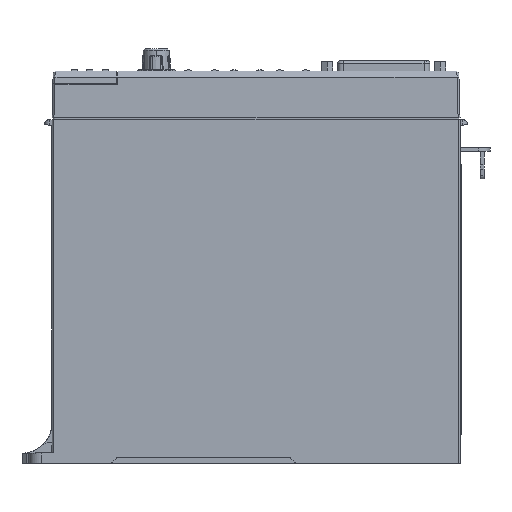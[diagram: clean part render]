
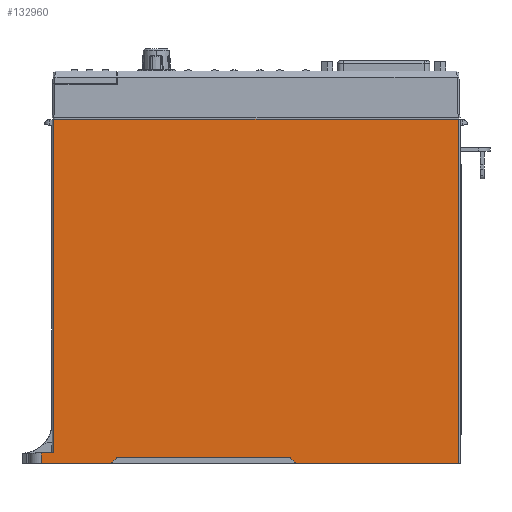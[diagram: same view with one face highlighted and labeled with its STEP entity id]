
A CAD part, left-side view. The second image highlights one B-rep face of the part: STEP entity #132960.
In plain terms, the highlighted planar face has unit normal (-1, 0, 0).
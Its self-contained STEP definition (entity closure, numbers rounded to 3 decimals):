
#1487=DIRECTION('',(0.,1.,0.));
#1488=VECTOR('',#1487,168.4);
#1489=CARTESIAN_POINT('',(0.5,-84.2,-20.165));
#1490=LINE('',#1489,#1488);
#2191=DIRECTION('',(0.,-1.,0.));
#2192=VECTOR('',#2191,28.322);
#2193=CARTESIAN_POINT('',(0.5,89.5,-163.5));
#2194=LINE('',#2193,#2192);
#2195=DIRECTION('',(0.,-1.,0.));
#2196=VECTOR('',#2195,66.722);
#2197=CARTESIAN_POINT('',(0.5,-17.478,-163.5));
#2198=LINE('',#2197,#2196);
#3847=DIRECTION('',(0.,0.,-1.));
#3848=VECTOR('',#3847,138.833);
#3849=CARTESIAN_POINT('',(0.5,84.2,-20.165));
#3850=LINE('',#3849,#3848);
#3851=DIRECTION('',(0.,0.,-1.));
#3852=VECTOR('',#3851,143.335);
#3853=CARTESIAN_POINT('',(0.5,-84.2,-20.165));
#3854=LINE('',#3853,#3852);
#3855=CARTESIAN_POINT('',(0.5,-17.478,-161.5));
#3856=DIRECTION('',(1.,0.,0.));
#3857=DIRECTION('',(0.,0.,-1.));
#3858=AXIS2_PLACEMENT_3D('',#3855,#3856,#3857);
#3860=DIRECTION('',(0.,0.707,0.707));
#3861=VECTOR('',#3860,2.293);
#3862=CARTESIAN_POINT('',(0.5,-16.064,-162.914));
#3863=LINE('',#3862,#3861);
#3864=CARTESIAN_POINT('',(0.5,-13.736,-162.));
#3865=DIRECTION('',(-1.,0.,0.));
#3866=DIRECTION('',(0.,-0.707,0.707));
#3867=AXIS2_PLACEMENT_3D('',#3864,#3865,#3866);
#3869=DIRECTION('',(0.,1.,0.));
#3870=VECTOR('',#3869,71.172);
#3871=CARTESIAN_POINT('',(0.5,-13.736,-161.));
#3872=LINE('',#3871,#3870);
#3873=CARTESIAN_POINT('',(0.5,57.436,-162.));
#3874=DIRECTION('',(-1.,0.,0.));
#3875=DIRECTION('',(0.,0.,1.));
#3876=AXIS2_PLACEMENT_3D('',#3873,#3874,#3875);
#3878=DIRECTION('',(0.,0.707,-0.707));
#3879=VECTOR('',#3878,2.293);
#3880=CARTESIAN_POINT('',(0.5,58.143,-161.293));
#3881=LINE('',#3880,#3879);
#3882=CARTESIAN_POINT('',(0.5,61.178,-161.5));
#3883=DIRECTION('',(1.,0.,0.));
#3884=DIRECTION('',(0.,-0.707,-0.707));
#3885=AXIS2_PLACEMENT_3D('',#3882,#3883,#3884);
#3887=DIRECTION('',(0.,0.,1.));
#3888=VECTOR('',#3887,4.41);
#3889=CARTESIAN_POINT('',(0.5,89.5,-163.5));
#3890=LINE('',#3889,#3888);
#3891=DIRECTION('',(0.,-1.,0.017));
#3892=VECTOR('',#3891,5.301);
#3893=CARTESIAN_POINT('',(0.5,89.5,
-159.09));
#3894=LINE('',#3893,#3892);
#125984=CARTESIAN_POINT('',(0.5,89.5,-163.5));
#125985=VERTEX_POINT('',#125984);
#125986=CARTESIAN_POINT('',(0.5,61.178,-163.5));
#125987=VERTEX_POINT('',#125986);
#125992=CARTESIAN_POINT('',(0.5,-17.478,-163.5));
#125993=VERTEX_POINT('',#125992);
#125994=CARTESIAN_POINT('',(0.5,-84.2,-163.5));
#125995=VERTEX_POINT('',#125994);
#126524=CARTESIAN_POINT('',(0.5,84.2,-158.998));
#126525=VERTEX_POINT('',#126524);
#126526=CARTESIAN_POINT('',(0.5,89.5,
-159.09));
#126527=VERTEX_POINT('',#126526);
#127374=CARTESIAN_POINT('',(0.5,-84.2,-20.165));
#127375=VERTEX_POINT('',#127374);
#127376=CARTESIAN_POINT('',(0.5,59.764,-162.914));
#127377=VERTEX_POINT('',#127376);
#127378=CARTESIAN_POINT('',(0.5,84.2,-20.165));
#127379=VERTEX_POINT('',#127378);
#127380=CARTESIAN_POINT('',(0.5,-16.064,-162.914));
#127381=VERTEX_POINT('',#127380);
#127382=CARTESIAN_POINT('',(0.5,-14.443,-161.293));
#127383=VERTEX_POINT('',#127382);
#127384=CARTESIAN_POINT('',(0.5,-13.736,-161.));
#127385=VERTEX_POINT('',#127384);
#127386=CARTESIAN_POINT('',(0.5,57.436,-161.));
#127387=VERTEX_POINT('',#127386);
#127388=CARTESIAN_POINT('',(0.5,58.143,-161.293));
#127389=VERTEX_POINT('',#127388);
#132931=CARTESIAN_POINT('',(0.5,85.,-163.5));
#132932=DIRECTION('',(-1.,0.,0.));
#132933=DIRECTION('',(0.,-1.,0.));
#132934=AXIS2_PLACEMENT_3D('',#132931,#132932,#132933);
#132935=PLANE('',#132934);
#132936=ORIENTED_EDGE('',*,*,#130975,.F.);
#132937=ORIENTED_EDGE('',*,*,#130995,.T.);
#132938=ORIENTED_EDGE('',*,*,#131412,.F.);
#132940=ORIENTED_EDGE('',*,*,#132939,.T.);
#132942=ORIENTED_EDGE('',*,*,#132941,.T.);
#132944=ORIENTED_EDGE('',*,*,#132943,.T.);
#132946=ORIENTED_EDGE('',*,*,#132945,.T.);
#132948=ORIENTED_EDGE('',*,*,#132947,.T.);
#132950=ORIENTED_EDGE('',*,*,#132949,.T.);
#132952=ORIENTED_EDGE('',*,*,#132951,.T.);
#132953=ORIENTED_EDGE('',*,*,#131404,.F.);
#132955=ORIENTED_EDGE('',*,*,#132954,.T.);
#132956=ORIENTED_EDGE('',*,*,#132071,.T.);
#132957=ORIENTED_EDGE('',*,*,#132924,.F.);
#132958=EDGE_LOOP('',(#132936,#132937,#132938,#132940,#132942,#132944,#132946,
#132948,#132950,#132952,#132953,#132955,#132956,#132957));
#132959=FACE_OUTER_BOUND('',#132958,.F.);
#132960=ADVANCED_FACE('',(#132959),#132935,.T.);
#3859=CIRCLE('',#3858,2.);
#3868=CIRCLE('',#3867,1.);
#3877=CIRCLE('',#3876,1.);
#3886=CIRCLE('',#3885,2.);
#130975=EDGE_CURVE('',#127375,#127379,#1490,.T.);
#130995=EDGE_CURVE('',#127375,#125995,#3854,.T.);
#131404=EDGE_CURVE('',#125985,#125987,#2194,.T.);
#131412=EDGE_CURVE('',#125993,#125995,#2198,.T.);
#132071=EDGE_CURVE('',#126527,#126525,#3894,.T.);
#132924=EDGE_CURVE('',#127379,#126525,#3850,.T.);
#132939=EDGE_CURVE('',#125993,#127381,#3859,.T.);
#132941=EDGE_CURVE('',#127381,#127383,#3863,.T.);
#132943=EDGE_CURVE('',#127383,#127385,#3868,.T.);
#132945=EDGE_CURVE('',#127385,#127387,#3872,.T.);
#132947=EDGE_CURVE('',#127387,#127389,#3877,.T.);
#132949=EDGE_CURVE('',#127389,#127377,#3881,.T.);
#132951=EDGE_CURVE('',#127377,#125987,#3886,.T.);
#132954=EDGE_CURVE('',#125985,#126527,#3890,.T.);
